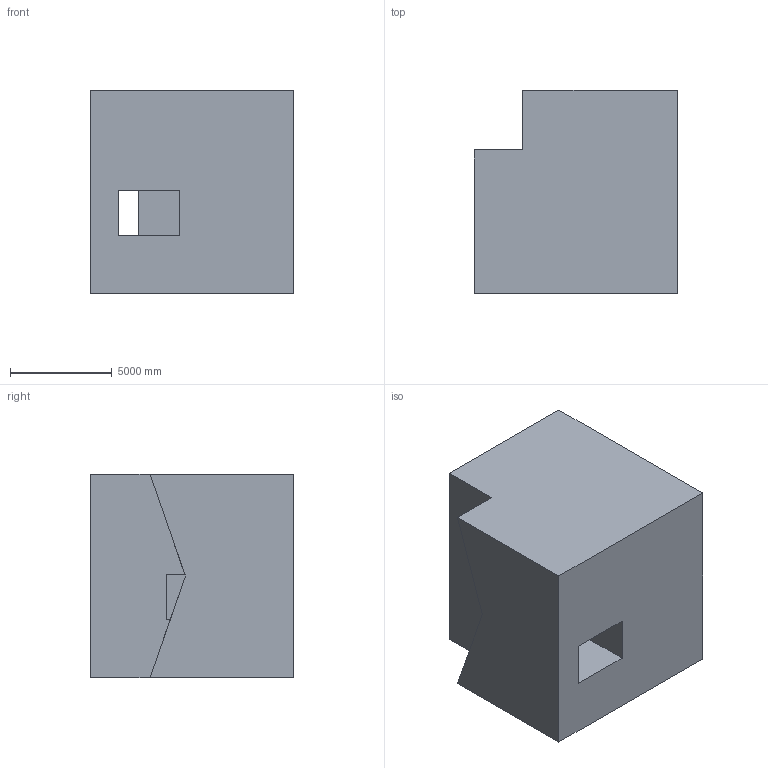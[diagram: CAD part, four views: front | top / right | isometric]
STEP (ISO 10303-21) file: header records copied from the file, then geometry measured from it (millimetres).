
FILE_DESCRIPTION (( 'STEP AP203' ), '1' );
FILE_NAME ('266.STEP', '2022-07-28T14:09:06', ( 'user' ), ( '' ), 'SwSTEP 2.0', 'SolidWorks 2021', '' );
FILE_SCHEMA (( 'CONFIG_CONTROL_DESIGN' ));
Length unit declared in the file: centimetre
Products named in the file (1): 266
Bounding box: 10000 x 10000 x 10000 mm (x, y, z)
Volume: 864299096027.1 mm3; surface area: 643202043.8 mm2
Topology: 1 solids, 1 shells, 16 faces, 45 edges, 30 vertices
Faces by surface type: plane 16
Entity records: 590 total; most frequent: CARTESIAN_POINT 92, ORIENTED_EDGE 90, DIRECTION 79, LINE 45, EDGE_CURVE 45, VECTOR 45, VERTEX_POINT 30, AXIS2_PLACEMENT_3D 17
